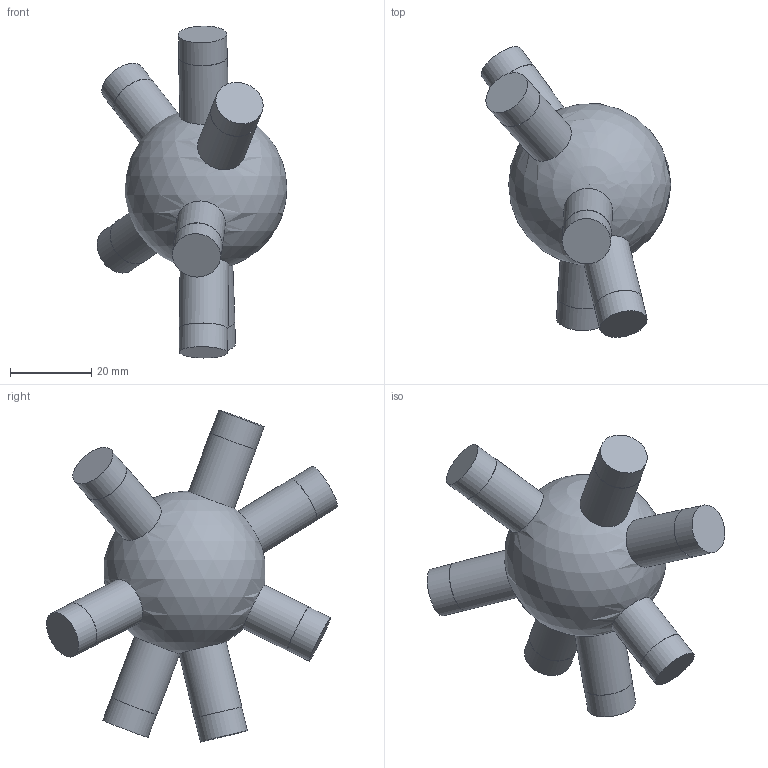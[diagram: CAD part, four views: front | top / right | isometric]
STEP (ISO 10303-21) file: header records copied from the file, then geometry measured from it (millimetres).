
FILE_DESCRIPTION(('Open CASCADE Model'),'2;1');
FILE_NAME('Open CASCADE Shape Model','2026-10-21T12:47:57',('Author'),( 'Open CASCADE'),'Open CASCADE STEP processor 7.9','Open CASCADE 7.9' ,'Unknown');
FILE_SCHEMA(('AUTOMOTIVE_DESIGN { 1 0 10303 214 1 1 1 1 }'));
Length unit declared in the file: millimetre
Products named in the file (1): Open CASCADE STEP translator 7.9 122
Bounding box: 46.71 x 71.63 x 81.75 mm (x, y, z)
Volume: 49837.2 mm3; surface area: 10585 mm2
Topology: 1 solids, 1 shells, 29 faces, 49 edges, 33 vertices
Faces by surface type: cylinder 14, plane 14, sphere 1
Full cylindrical faces by diameter (mm): 11.9 x7, 12 x7
Entity records: 2083 total; most frequent: CARTESIAN_POINT 986, DIRECTION 223, ORIENTED_EDGE 96, PCURVE 96, DEFINITIONAL_REPRESENTATION 96, LINE 74, VECTOR 74, AXIS2_PLACEMENT_3D 64
